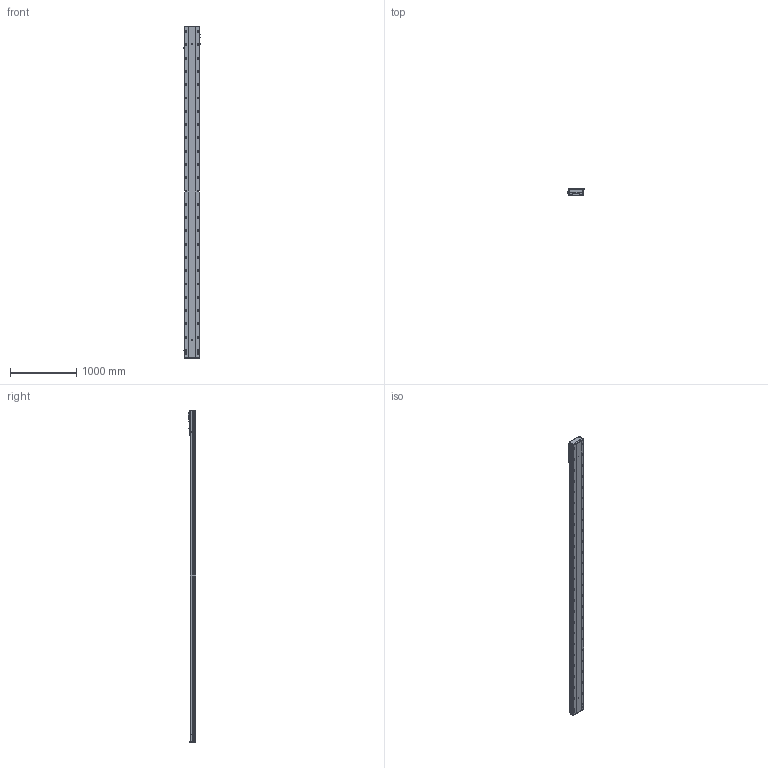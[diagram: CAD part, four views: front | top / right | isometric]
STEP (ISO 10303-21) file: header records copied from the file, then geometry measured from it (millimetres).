
FILE_DESCRIPTION (( 'STEP AP203' ), '1' );
FILE_NAME ('BEH22-A-M2-4550-L1-¦Õ22-PCD100-M6-C3.STEP', '2022-06-21T06:33:55', ( 'CXY' ), ( 'BT' ), 'SwSTEP 2.0', 'SolidWorks 2016', '' );
FILE_SCHEMA (( 'CONFIG_CONTROL_DESIGN' ));
Products named in the file (12): BEH22-B-01-XX-2; PM-T65; _G-M6; 萇儂階踡輸; BEH22-A-M2-4550-L1-耳22-PCD100-M6-C3; BEH22-04-F; BTH22-07-DZ; FS-25-6.66-M2-H22K6; BEH22-07-PCD100-80-M6; BEH22-04-01_L; FS-02-BTH22; FS-01-10（10毫米）
Assembly tree (18 placements, depth 3):
  BEH22-A-M2-4550-L1-耳22-PCD100-M6-C3
    BEH22-B-01-XX-2
    BTH22-07-DZ  x2
    PM-T65  x2
    BEH22-04-01_L
      BEH22-04-F
      萇儂階踡輸
      _G-M6  x3
      FS-02-BTH22
      FS-01-10（10毫米）  x4
      BEH22-07-PCD100-80-M6
      FS-25-6.66-M2-H22K6
Bounding box: 247.7 x 111 x 4998 mm (x, y, z)
Volume: 51068193.8 mm3; surface area: 4925561.8 mm2
Topology: 21 solids, 21 shells, 2868 faces, 8632 edges, 5634 vertices
Faces by surface type: cylinder 1568, plane 1008, cone 233, bspline 37, torus 22
Entity records: 489952 total; most frequent: CARTESIAN_POINT 423087, ORIENTED_EDGE 15084, DIRECTION 12298, EDGE_CURVE 7542, VERTEX_POINT 4994, AXIS2_PLACEMENT_3D 4472, VECTOR 3354, LINE 3354
